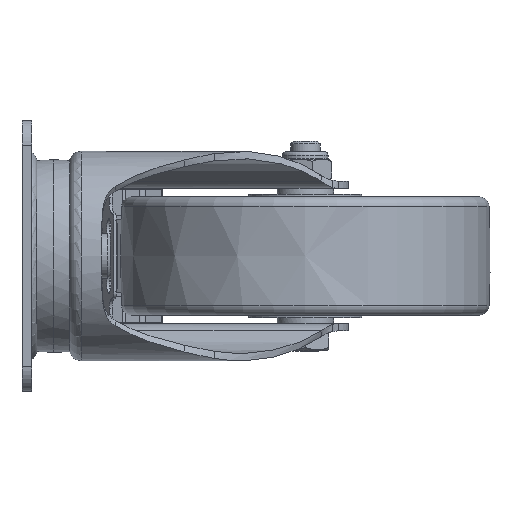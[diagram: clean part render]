
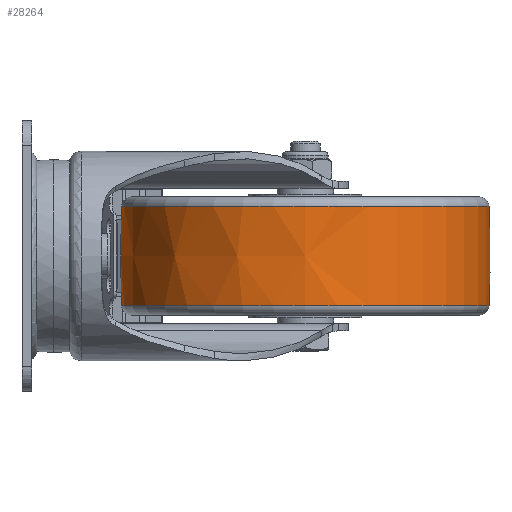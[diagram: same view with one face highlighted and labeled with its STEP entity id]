
A CAD part, left-side view. The second image highlights one B-rep face of the part: STEP entity #28264.
In plain terms, the highlighted free-form (B-spline) face has degree [2, 2] with [3, 9] control points.
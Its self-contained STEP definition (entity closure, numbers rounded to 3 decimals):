
#33=(
BOUNDED_SURFACE()
B_SPLINE_SURFACE(2,2,((#53847,#53848,#53849,#53850,#53851,#53852,#53853,
#53854,#53855),(#53856,#53857,#53858,#53859,#53860,#53861,#53862,#53863,
#53864),(#53865,#53866,#53867,#53868,#53869,#53870,#53871,#53872,#53873)),
 .UNSPECIFIED.,.F.,.T.,.F.)
B_SPLINE_SURFACE_WITH_KNOTS((3,3),(3,2,2,2,3),(-0.04,0.04),
(-3.142,-1.571,0.,1.571,3.142),
 .UNSPECIFIED.)
GEOMETRIC_REPRESENTATION_ITEM()
RATIONAL_B_SPLINE_SURFACE(((1.,0.707,1.,0.707,1.,
0.707,1.,0.707,1.),(0.999,0.707,
0.999,0.707,0.999,0.707,
0.999,0.707,0.999),(1.,0.707,
1.,0.707,1.,0.707,1.,0.707,1.)))
REPRESENTATION_ITEM('')
SURFACE()
);
#7495=FACE_OUTER_BOUND('',#9171,.T.);
#9171=EDGE_LOOP('',(#26202,#26203,#26204,#26205,#26206,#26207));
#9858=CIRCLE('',#30030,74.594);
#9859=CIRCLE('',#30031,74.594);
#9861=CIRCLE('',#30034,74.594);
#9862=CIRCLE('',#30035,500.5);
#9863=CIRCLE('',#30036,74.594);
#13656=VERTEX_POINT('',#53839);
#13657=VERTEX_POINT('',#53841);
#13659=VERTEX_POINT('',#53874);
#13660=VERTEX_POINT('',#53875);
#17840=EDGE_CURVE('',#13656,#13657,#9858,.T.);
#17841=EDGE_CURVE('',#13657,#13656,#9859,.T.);
#17843=EDGE_CURVE('',#13659,#13660,#9861,.T.);
#17844=EDGE_CURVE('',#13659,#13657,#9862,.T.);
#17845=EDGE_CURVE('',#13660,#13659,#9863,.T.);
#26202=ORIENTED_EDGE('',*,*,#17843,.F.);
#26203=ORIENTED_EDGE('',*,*,#17844,.T.);
#26204=ORIENTED_EDGE('',*,*,#17840,.F.);
#26205=ORIENTED_EDGE('',*,*,#17841,.F.);
#26206=ORIENTED_EDGE('',*,*,#17844,.F.);
#26207=ORIENTED_EDGE('',*,*,#17845,.F.);
#28264=ADVANCED_FACE('',(#7495),#33,.F.);
#30030=AXIS2_PLACEMENT_3D('',#53842,#35861,#35862);
#30031=AXIS2_PLACEMENT_3D('',#53843,#35863,#35864);
#30034=AXIS2_PLACEMENT_3D('',#53876,#35869,#35870);
#30035=AXIS2_PLACEMENT_3D('',#53877,#35871,#35872);
#30036=AXIS2_PLACEMENT_3D('',#53878,#35873,#35874);
#35861=DIRECTION('center_axis',(0.,0.,
-1.));
#35862=DIRECTION('ref_axis',(0.,1.,0.));
#35863=DIRECTION('center_axis',(0.,0.,
-1.));
#35864=DIRECTION('ref_axis',(0.,1.,0.));
#35869=DIRECTION('center_axis',(0.,0.,
1.));
#35870=DIRECTION('ref_axis',(0.,1.,0.));
#35871=DIRECTION('center_axis',(1.,0.,0.));
#35872=DIRECTION('ref_axis',(0.,-1.,0.));
#35873=DIRECTION('center_axis',(0.,0.,
1.));
#35874=DIRECTION('ref_axis',(0.,1.,0.));
#53839=CARTESIAN_POINT('',(44.5,-40.408,-20.161));
#53841=CARTESIAN_POINT('',(44.5,-189.595,-20.161));
#53842=CARTESIAN_POINT('Origin',(44.5,-115.001,-20.161));
#53843=CARTESIAN_POINT('Origin',(44.5,-115.001,-20.161));
#53847=CARTESIAN_POINT('Ctrl Pts',(44.5,-189.595,-20.161));
#53848=CARTESIAN_POINT('Ctrl Pts',(119.094,-189.595,-20.161));
#53849=CARTESIAN_POINT('Ctrl Pts',(119.094,-115.001,-20.161));
#53850=CARTESIAN_POINT('Ctrl Pts',(119.094,-40.408,-20.161));
#53851=CARTESIAN_POINT('Ctrl Pts',(44.5,-40.408,-20.161));
#53852=CARTESIAN_POINT('Ctrl Pts',(-30.094,-40.408,
-20.161));
#53853=CARTESIAN_POINT('Ctrl Pts',(-30.094,-115.001,
-20.161));
#53854=CARTESIAN_POINT('Ctrl Pts',(-30.094,-189.595,-20.161));
#53855=CARTESIAN_POINT('Ctrl Pts',(44.5,-189.595,-20.161));
#53856=CARTESIAN_POINT('Ctrl Pts',(44.5,-190.408,0.));
#53857=CARTESIAN_POINT('Ctrl Pts',(119.907,-190.408,0.));
#53858=CARTESIAN_POINT('Ctrl Pts',(119.907,-115.001,0.));
#53859=CARTESIAN_POINT('Ctrl Pts',(119.907,-39.595,0.));
#53860=CARTESIAN_POINT('Ctrl Pts',(44.5,-39.595,0.));
#53861=CARTESIAN_POINT('Ctrl Pts',(-30.907,-39.595,
0.));
#53862=CARTESIAN_POINT('Ctrl Pts',(-30.907,-115.001,
0.));
#53863=CARTESIAN_POINT('Ctrl Pts',(-30.907,-190.408,
0.));
#53864=CARTESIAN_POINT('Ctrl Pts',(44.5,-190.408,0.));
#53865=CARTESIAN_POINT('Ctrl Pts',(44.5,-189.595,20.161));
#53866=CARTESIAN_POINT('Ctrl Pts',(119.094,-189.595,20.161));
#53867=CARTESIAN_POINT('Ctrl Pts',(119.094,-115.001,20.161));
#53868=CARTESIAN_POINT('Ctrl Pts',(119.094,-40.408,20.161));
#53869=CARTESIAN_POINT('Ctrl Pts',(44.5,-40.408,20.161));
#53870=CARTESIAN_POINT('Ctrl Pts',(-30.094,-40.408,
20.161));
#53871=CARTESIAN_POINT('Ctrl Pts',(-30.094,-115.001,
20.161));
#53872=CARTESIAN_POINT('Ctrl Pts',(-30.094,-189.595,
20.161));
#53873=CARTESIAN_POINT('Ctrl Pts',(44.5,-189.595,20.161));
#53874=CARTESIAN_POINT('',(44.5,-189.595,20.161));
#53875=CARTESIAN_POINT('',(44.5,-40.408,20.161));
#53876=CARTESIAN_POINT('Origin',(44.5,-115.001,20.161));
#53877=CARTESIAN_POINT('Origin',(44.5,310.499,0.));
#53878=CARTESIAN_POINT('Origin',(44.5,-115.001,20.161));
